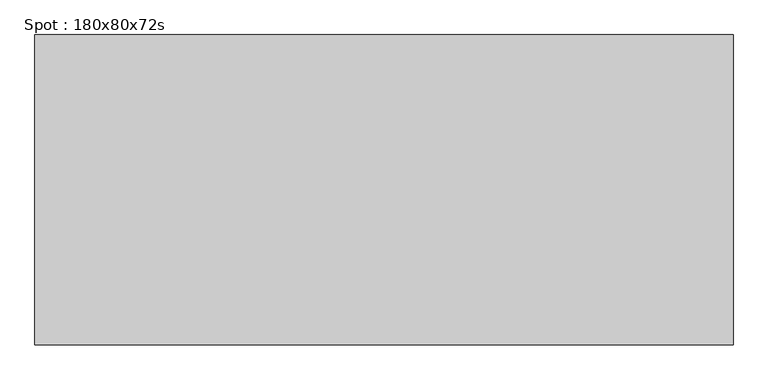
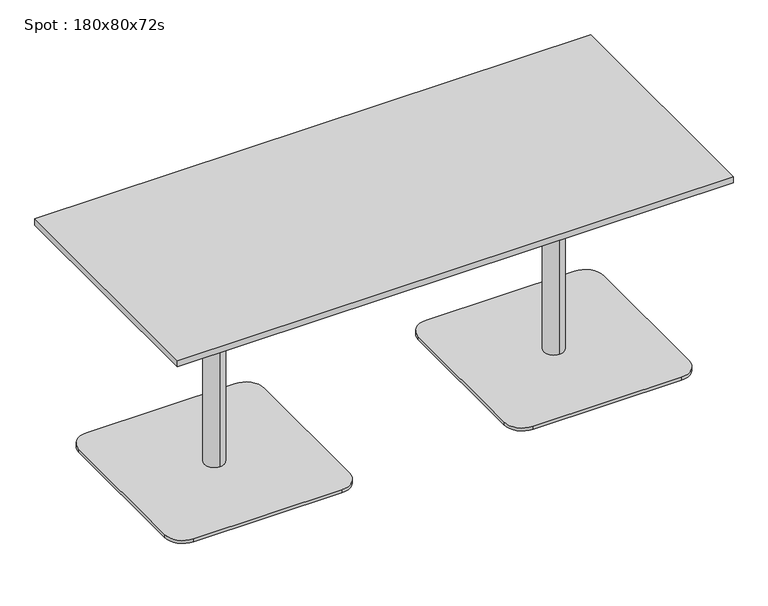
"""IFC4 building model written with IfcOpenShell, lengths in millimetres: furniture geometry, Spot : 180x80x72s."""

from ifc_helpers import new_model, si_unit, point, frame, frame_2d, origin, origin_with_axes, place, context, project, spatial, polyline, circle_curve, trimmed, segment, composite_curve, outline, extrude, source, transform, mapped, element, save
from ifc_brep_helpers import plane_surface, cylinder_surface, revolved_surface, advanced_brep


def spot_180x80x72s_476e01bf(model_context):
    return source(origin(), model_context, "Body", "SolidModel", [
        extrude(outline(polyline([(900.0, 400.0), (900.0, -400.0), (-900.0, -400.0), (-900.0, 400.0), (900.0, 400.0)])), frame((0.0, 0.0, 698.0), z_axis=(0.0, 0.0, 1.0), x_axis=(1.0, 0.0, 0.0)), (0.0, 0.0, 1.0), 22.0),
        extrude(outline(composite_curve([segment(trimmed(circle_curve(frame_2d((-310.0, 240.0)), 60.0), [point((-310.0, 300.0))], [point((-250.0, 240.0))], False, "CARTESIAN"), True, "CONTINUOUS"), segment(polyline([(-250.0, 240.0), (-250.0, -240.0)]), True, "CONTINUOUS"), segment(trimmed(circle_curve(frame_2d((-310.0, -240.0)), 60.0), [point((-250.0, -240.0))], [point((-310.0, -300.0))], False, "CARTESIAN"), True, "CONTINUOUS"), segment(polyline([(-310.0, -300.0), (-790.0, -300.0)]), True, "CONTINUOUS"), segment(trimmed(circle_curve(frame_2d((-790.0, -240.0)), 60.0), [point((-790.0, -300.0))], [point((-850.0, -240.0))], False, "CARTESIAN"), True, "CONTINUOUS"), segment(polyline([(-850.0, -240.0), (-850.0, 240.0)]), True, "CONTINUOUS"), segment(trimmed(circle_curve(frame_2d((-790.0, 240.0)), 60.0), [point((-850.0, 240.0))], [point((-790.0, 300.0))], False, "CARTESIAN"), True, "CONTINUOUS"), segment(polyline([(-790.0, 300.0), (-310.0, 300.0)]), True, "CONTINUOUS")], self_intersect=False)), origin_with_axes(), (0.0, 0.0, 1.0), 10.0),
        advanced_brep(
        [(-550.0, 32.0, 10.0), (-550.0, -32.0, 10.0), (-550.0, -32.0, 667.406916), (-550.0, 32.0, 667.406916), (-550.0, 0.0, 10.0), (-550.0, 150.0, 698.0), (-550.0, -150.0, 698.0), (-550.0, 0.0, 698.0), (-550.0, 150.0, 686.7213673), (-550.0, -150.0, 686.7213673)],
        [
            (0, 1, circle_curve(frame((-550.0, 0.0, 10.0), z_axis=(0.0, 0.0, 1.0), x_axis=(0.0, -1.0, 0.0)), 32.0)),
            (1, 2),
            (2, 3, circle_curve(frame((-550.0, 0.0, 667.406916), z_axis=(0.0, 0.0, -1.0), x_axis=(0.0, -1.0, 0.0)), 32.0)),
            (3, 0),
            (1, 0, circle_curve(frame((-550.0, 0.0, 10.0), z_axis=(0.0, 0.0, 1.0), x_axis=(0.0, -1.0, 0.0)), 32.0)),
            (3, 2, circle_curve(frame((-550.0, 0.0, 667.406916), z_axis=(0.0, 0.0, -1.0), x_axis=(0.0, -1.0, 0.0)), 32.0)),
            (4, 1),
            (0, 4),
            (5, 6, circle_curve(frame((-550.0, 0.0, 698.0), z_axis=(0.0, 0.0, 1.0), x_axis=(0.0, -1.0, 0.0)), 150.0)),
            (6, 7),
            (7, 5),
            (6, 5, circle_curve(frame((-550.0, 0.0, 698.0), z_axis=(0.0, 0.0, 1.0), x_axis=(0.0, -1.0, 0.0)), 150.0)),
            (8, 9, circle_curve(frame((-550.0, 0.0, 686.7213673), z_axis=(0.0, 0.0, 1.0), x_axis=(0.0, -1.0, 0.0)), 150.0)),
            (9, 6),
            (5, 8),
            (9, 8, circle_curve(frame((-550.0, 0.0, 686.7213673), z_axis=(0.0, 0.0, 1.0), x_axis=(0.0, -1.0, 0.0)), 150.0)),
            (2, 9),
            (8, 3),
        ],
        [
            cylinder_surface(frame((-550.0, 0.0, 1060.0), z_axis=(0.0, 0.0, -1.0), x_axis=(0.0, -1.0, 0.0)), 32.0),
            plane_surface(frame((-550.0, 0.0, 10.0), z_axis=(0.0, 0.0, -1.0), x_axis=(0.0, -1.0, 0.0))),
            plane_surface(frame((-550.0, 0.0, 698.0), z_axis=(0.0, 0.0, 1.0), x_axis=(0.0, -1.0, 0.0))),
            cylinder_surface(frame((-550.0, 0.0, 1060.0), z_axis=(0.0, 0.0, -1.0), x_axis=(0.0, -1.0, 0.0)), 150.0),
            revolved_surface(polyline([(-550.0, -150.0, 686.7213673), (-550.0, -32.0, 667.406916)]), (-550.0, 0.0, 1060.0), (0.0, 0.0, -1.0)),
        ],
        [
            (0, [[1, 2, 3, 4]]),
            (0, [[5, -4, 6, -2]]),
            (1, [[7, -1, 8]]),
            (1, [[-8, -5, -7]]),
            (2, [[9, 10, 11]]),
            (2, [[12, -11, -10]]),
            (3, [[13, 14, -9, 15]]),
            (3, [[16, -15, -12, -14]]),
            (4, [[-3, 17, -13, 18]]),
            (4, [[-6, -18, -16, -17]]),
        ],
    ),
        extrude(outline(polyline([(-550.0, 0.0), (-570.0, 0.0), (-570.0, 20.0), (-550.0, 20.0), (-550.0, 0.0)])), origin_with_axes(), (0.0, 0.0, 1.0), 10.0),
        extrude(outline(composite_curve([segment(trimmed(circle_curve(frame_2d((790.0, 240.0)), 60.0), [point((790.0, 300.0))], [point((850.0, 240.0))], False, "CARTESIAN"), True, "CONTINUOUS"), segment(polyline([(850.0, 240.0), (850.0, -240.0)]), True, "CONTINUOUS"), segment(trimmed(circle_curve(frame_2d((790.0, -240.0)), 60.0), [point((850.0, -240.0))], [point((790.0, -300.0))], False, "CARTESIAN"), True, "CONTINUOUS"), segment(polyline([(790.0, -300.0), (310.0, -300.0)]), True, "CONTINUOUS"), segment(trimmed(circle_curve(frame_2d((310.0, -240.0)), 60.0), [point((310.0, -300.0))], [point((250.0, -240.0))], False, "CARTESIAN"), True, "CONTINUOUS"), segment(polyline([(250.0, -240.0), (250.0, 240.0)]), True, "CONTINUOUS"), segment(trimmed(circle_curve(frame_2d((310.0, 240.0)), 60.0), [point((250.0, 240.0))], [point((310.0, 300.0))], False, "CARTESIAN"), True, "CONTINUOUS"), segment(polyline([(310.0, 300.0), (790.0, 300.0)]), True, "CONTINUOUS")], self_intersect=False)), origin_with_axes(), (0.0, 0.0, 1.0), 10.0),
        advanced_brep(
        [(550.0, 32.0, 10.0), (550.0, -32.0, 10.0), (550.0, -32.0, 667.406916), (550.0, 32.0, 667.406916), (550.0, 0.0, 10.0), (550.0, 150.0, 698.0), (550.0, -150.0, 698.0), (550.0, 0.0, 698.0), (550.0, 150.0, 686.7213673), (550.0, -150.0, 686.7213673)],
        [
            (0, 1, circle_curve(frame((550.0, 0.0, 10.0), z_axis=(0.0, 0.0, 1.0), x_axis=(0.0, -1.0, 0.0)), 32.0)),
            (1, 2),
            (2, 3, circle_curve(frame((550.0, 0.0, 667.406916), z_axis=(0.0, 0.0, -1.0), x_axis=(0.0, -1.0, 0.0)), 32.0)),
            (3, 0),
            (1, 0, circle_curve(frame((550.0, 0.0, 10.0), z_axis=(0.0, 0.0, 1.0), x_axis=(0.0, -1.0, 0.0)), 32.0)),
            (3, 2, circle_curve(frame((550.0, 0.0, 667.406916), z_axis=(0.0, 0.0, -1.0), x_axis=(0.0, -1.0, 0.0)), 32.0)),
            (4, 1),
            (0, 4),
            (5, 6, circle_curve(frame((550.0, 0.0, 698.0), z_axis=(0.0, 0.0, 1.0), x_axis=(0.0, -1.0, 0.0)), 150.0)),
            (6, 7),
            (7, 5),
            (6, 5, circle_curve(frame((550.0, 0.0, 698.0), z_axis=(0.0, 0.0, 1.0), x_axis=(0.0, -1.0, 0.0)), 150.0)),
            (8, 9, circle_curve(frame((550.0, 0.0, 686.7213673), z_axis=(0.0, 0.0, 1.0), x_axis=(0.0, -1.0, 0.0)), 150.0)),
            (9, 6),
            (5, 8),
            (9, 8, circle_curve(frame((550.0, 0.0, 686.7213673), z_axis=(0.0, 0.0, 1.0), x_axis=(0.0, -1.0, 0.0)), 150.0)),
            (2, 9),
            (8, 3),
        ],
        [
            cylinder_surface(frame((550.0, 0.0, 1060.0), z_axis=(0.0, 0.0, -1.0), x_axis=(0.0, -1.0, 0.0)), 32.0),
            plane_surface(frame((550.0, 0.0, 10.0), z_axis=(0.0, 0.0, -1.0), x_axis=(0.0, -1.0, 0.0))),
            plane_surface(frame((550.0, 0.0, 698.0), z_axis=(0.0, 0.0, 1.0), x_axis=(0.0, -1.0, 0.0))),
            cylinder_surface(frame((550.0, 0.0, 1060.0), z_axis=(0.0, 0.0, -1.0), x_axis=(0.0, -1.0, 0.0)), 150.0),
            revolved_surface(polyline([(550.0, -150.0, 686.7213673), (550.0, -32.0, 667.406916)]), (550.0, 0.0, 1060.0), (0.0, 0.0, -1.0)),
        ],
        [
            (0, [[1, 2, 3, 4]]),
            (0, [[5, -4, 6, -2]]),
            (1, [[7, -1, 8]]),
            (1, [[-8, -5, -7]]),
            (2, [[9, 10, 11]]),
            (2, [[12, -11, -10]]),
            (3, [[13, 14, -9, 15]]),
            (3, [[16, -15, -12, -14]]),
            (4, [[-3, 17, -13, 18]]),
            (4, [[-6, -18, -16, -17]]),
        ],
    ),
        extrude(outline(polyline([(550.0, 0.0), (530.0, 0.0), (530.0, 20.0), (550.0, 20.0), (550.0, 0.0)])), origin_with_axes(), (0.0, 0.0, 1.0), 10.0),
    ])


if __name__ == "__main__":
    model = new_model("IFC4")
    model_context = context("Model", 3, world=origin())
    ifc_project = project(units=[si_unit("LENGTHUNIT", "METRE", prefix="MILLI")], contexts=[model_context])
    site = spatial("IfcSite", under=ifc_project)
    building = spatial("IfcBuilding", under=site)
    placement = place(None, origin())
    spot_180x80x72s_shape = spot_180x80x72s_476e01bf(model_context)
    element("IfcFurniture", 1, ObjectType="Spot : 180x80x72s", at=placement, inside=building, context=model_context, shape_type="MappedRepresentation", body=[
        mapped(spot_180x80x72s_shape, transform((0.0, 0.0, 0.0), x_axis=(1.0, 0.0, 0.0), y_axis=(0.0, 1.0, 0.0), z_axis=(0.0, 0.0, 1.0))),
    ])
    save(model, "model.ifc")
